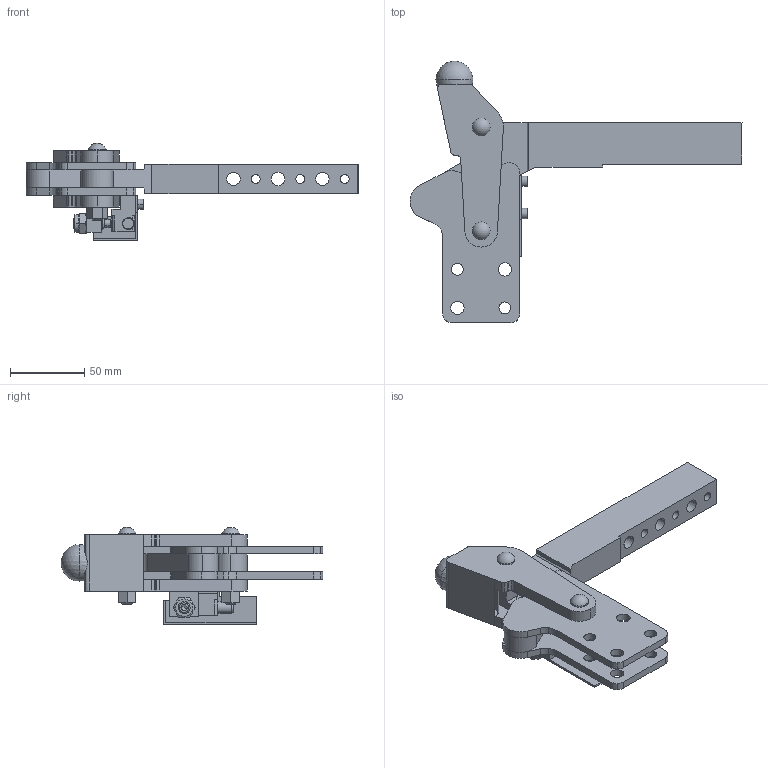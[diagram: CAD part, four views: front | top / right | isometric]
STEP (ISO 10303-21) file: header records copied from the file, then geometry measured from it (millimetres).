
FILE_DESCRIPTION((''),'2;1');
FILE_NAME('S:\Matthew\Step Files (Power Clamps) v.3.14\Hand Clamps\M20-S1\M20-01-97-S1.stp','2007-02-28T14:34:42',('matthew'),(''),'Autodesk Inventor 8','Autodesk Inventor 8','');
FILE_SCHEMA(('AUTOMOTIVE_DESIGN { 1 0 10303 214 1 1 1 1 }'));
Length unit declared in the file: millimetre
Products named in the file (5): M20-01-97-S1; M20-01-97-S11; M20-01-97-S12; M20-01-97-S13; M20-01-97-S14
Assembly tree (4 placements, depth 2):
  M20-01-97-S1
    M20-01-97-S11
    M20-01-97-S12
    M20-01-97-S13
    M20-01-97-S14
Bounding box: 223.99 x 176.41 x 65.61 mm (x, y, z)
Volume: 262232.2 mm3; surface area: 92334.8 mm2
Topology: 4 solids, 6 shells, 335 faces, 906 edges, 597 vertices
Faces by surface type: plane 150, cylinder 139, bspline 22, cone 20, sphere 4
Entity records: 11207 total; most frequent: CARTESIAN_POINT 2477, DIRECTION 1840, ORIENTED_EDGE 1790, EDGE_CURVE 895, AXIS2_PLACEMENT_3D 670, VERTEX_POINT 596, VECTOR 500, LINE 500
